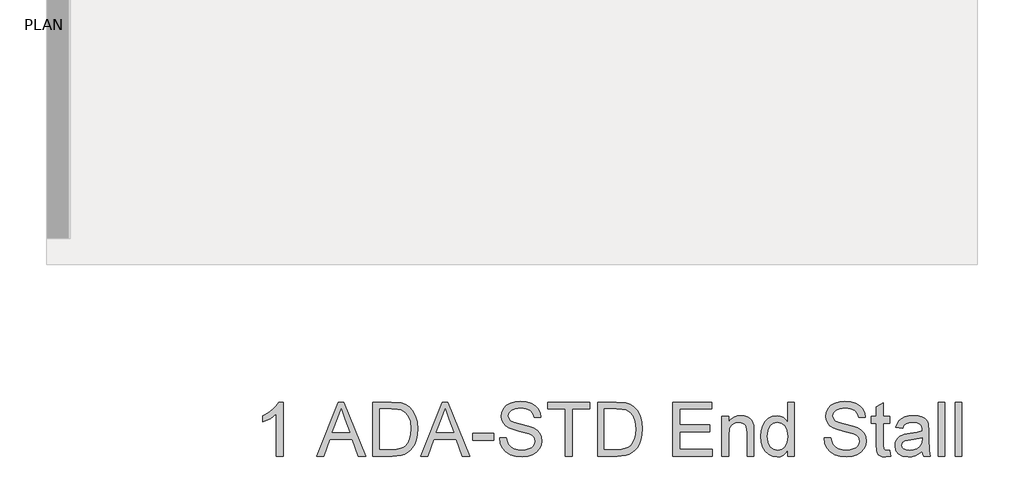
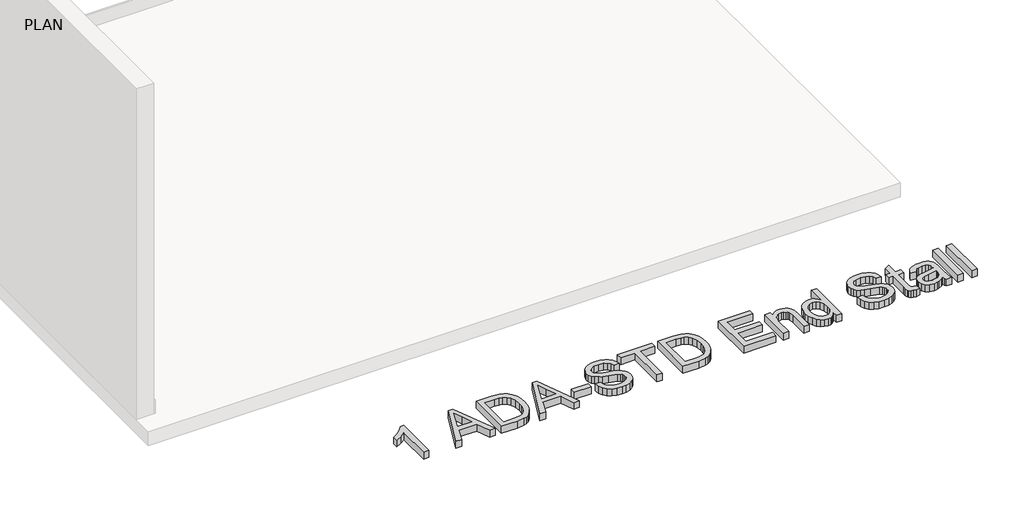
# One storey, part 19 of 21: 1 proxy.
"""IFC4 building model written with IfcOpenShell, lengths in millimetres."""

import ifcopenshell
import ifcopenshell.guid

model = None  # the IFC model being written
_history = None  # IfcOwnerHistory: only IFC2X3 demands one
_inside = {}  # id of a spatial element -> (the spatial element, [elements in it])
_under = {}  # id of a project, library or spatial element -> (it, [spatial elements below it])
_declared = {}  # id of a project -> (the project, [libraries it declares])
_typed = {}  # id of a type object -> (the type object, [elements of that type])
_made_of = {}  # id of a material, layer set ... -> (it, [elements and type objects made of it])


def new_model(schema):
    """Start an empty IFC model of exactly this schema.

    Asked for "IFC4X3", IfcOpenShell would pick the latest addendum, in which some entities
    have other attributes; the version numbers below select the first issue.
    IFC2X3 requires an IfcOwnerHistory on every rooted entity: one is made here for all.
    """
    global model, _history
    if schema == "IFC4X3":
        model = ifcopenshell.file(schema_version=(4, 3, 0, 0))
    else:
        model = ifcopenshell.file(schema=schema)
    _inside.clear()
    _under.clear()
    _declared.clear()
    _typed.clear()
    _made_of.clear()
    _history = None
    if model.schema == "IFC2X3":
        org = make("IfcOrganization", Name="unknown")
        user = make(
            "IfcPersonAndOrganization",
            ThePerson=make("IfcPerson", FamilyName="unknown"),
            TheOrganization=org,
        )
        app = make(
            "IfcApplication",
            ApplicationDeveloper=org,
            Version="unknown",
            ApplicationFullName="unknown",
            ApplicationIdentifier="unknown",
        )
        _history = make(
            "IfcOwnerHistory",
            OwningUser=user,
            OwningApplication=app,
            ChangeAction="ADDED",
            CreationDate=0,
        )
    return model


def make(cls, **values):
    """One entity of the class cls with the attributes given. An attribute that is None is left unset."""
    return model.create_entity(
        cls, **{name: value for name, value in values.items() if value is not None}
    )


def rooted(cls, **values):
    """An entity with a GlobalId (a new one), such as an element, a storey or a relation."""
    return make(cls, GlobalId=ifcopenshell.guid.new(), OwnerHistory=_history, **values)


def si_unit(unit_type, name, prefix=None):
    """IfcSIUnit, for example si_unit("LENGTHUNIT", "METRE", prefix="MILLI")."""
    return make("IfcSIUnit", UnitType=unit_type, Prefix=prefix, Name=name)


def assignment(units):
    """IfcUnitAssignment: the units of a project."""
    return None if units is None else make("IfcUnitAssignment", Units=units)


def point(xyz):
    """IfcCartesianPoint."""
    return None if xyz is None else make("IfcCartesianPoint", Coordinates=xyz)


def direction(xyz):
    """IfcDirection."""
    return None if xyz is None else make("IfcDirection", DirectionRatios=xyz)


def frame(location, z_axis=None, x_axis=None):
    """IfcAxis2Placement3D, a coordinate frame: its origin and axes. An axis left out is left unset."""
    return make(
        "IfcAxis2Placement3D",
        Location=point(location),
        Axis=direction(z_axis),
        RefDirection=direction(x_axis),
    )


def origin():
    """The frame at (0, 0, 0) with its axes left unset."""
    return frame((0.0, 0.0, 0.0))


def origin_with_axes():
    """The frame at (0, 0, 0) with the z axis (0, 0, 1) and the x axis (1, 0, 0) written out."""
    return frame((0.0, 0.0, 0.0), z_axis=(0.0, 0.0, 1.0), x_axis=(1.0, 0.0, 0.0))


def place(relative_to, where):
    """IfcLocalPlacement: puts the frame where relative to a parent placement (None: the world)."""
    return make(
        "IfcLocalPlacement", PlacementRelTo=relative_to, RelativePlacement=where
    )


def context(
    kind, dimensions, precision=None, world=None, true_north=None, identifier=None
):
    """IfcGeometricRepresentationContext, for example the 3D "Model" context."""
    return make(
        "IfcGeometricRepresentationContext",
        ContextIdentifier=identifier,
        ContextType=kind,
        CoordinateSpaceDimension=dimensions,
        Precision=precision,
        WorldCoordinateSystem=world,
        TrueNorth=true_north,
    )


def project(units=None, contexts=None):
    """IfcProject with its units and contexts."""
    return rooted(
        "IfcProject",
        Name="project",
        RepresentationContexts=contexts,
        UnitsInContext=assignment(units),
    )


def spatial(cls, under=None, at=None, **own):
    """A site, building, storey or space (cls), placed at a placement, below another one or the project."""
    s = rooted(cls, ObjectPlacement=at, **own)
    if under is not None:
        _under.setdefault(under.id(), (under, []))[1].append(s)
    return s


def polyline(points):
    """IfcPolyline through the points."""
    return make("IfcPolyline", Points=[point(p) for p in points])


def outline(outer, holes=None, kind="AREA"):
    """IfcArbitraryClosedProfileDef: a profile drawn as a closed curve; with holes, ...WithVoids."""
    if holes is None:
        return make("IfcArbitraryClosedProfileDef", ProfileType=kind, OuterCurve=outer)
    return make(
        "IfcArbitraryProfileDefWithVoids",
        ProfileType=kind,
        OuterCurve=outer,
        InnerCurves=holes,
    )


def extrude(swept, where, along, depth):
    """IfcExtrudedAreaSolid: the profile swept, set in the frame where, extruded along a direction by depth."""
    return make(
        "IfcExtrudedAreaSolid",
        SweptArea=swept,
        Position=where,
        ExtrudedDirection=direction(along),
        Depth=depth,
    )


def shape(context_of_items, identifier, shape_type, items):
    """IfcShapeRepresentation: the items that make up one representation, for example the "Body"."""
    return make(
        "IfcShapeRepresentation",
        ContextOfItems=context_of_items,
        RepresentationIdentifier=identifier,
        RepresentationType=shape_type,
        Items=items,
    )


def made_of(thing, what):
    """Note that an element or type object is made of a material, layer set ...; save() writes the relation."""
    if what is not None:
        _made_of.setdefault(what.id(), (what, []))[1].append(thing)
    return thing


def element(
    cls,
    number,
    at=None,
    inside=None,
    cuts=None,
    type_object=None,
    material=None,
    context=None,
    identifier="Body",
    shape_type=None,
    held_by="IfcProductDefinitionShape",
    body=None,
    shapes=None,
    **own,
):
    """One element of the class cls, such as IfcWall. Its Tag is "e" and its number.

    at: its placement. inside: the storey or other place that contains it. cuts: it is an
    opening in that element (IfcRelVoidsElement). A single representation is given by context,
    identifier, shape_type and body (its items); several are given by shapes. held_by: the class
    of the entity that holds the representations. save() writes the other relations.
    """
    e = rooted(cls, Tag="e%d" % number, ObjectPlacement=at, **own)
    if body is not None:
        shapes = [shape(context, identifier, shape_type, body)]
    if shapes is not None:
        e.Representation = make(held_by, Representations=shapes)
    if inside is not None:
        _inside.setdefault(inside.id(), (inside, []))[1].append(e)
    if cuts is not None:
        rooted(
            "IfcRelVoidsElement", RelatingBuildingElement=cuts, RelatedOpeningElement=e
        )
    if type_object is not None:
        _typed.setdefault(type_object.id(), (type_object, []))[1].append(e)
    return made_of(e, material)


def aggregate(whole, parts):
    """IfcRelAggregates: a whole, such as a stair, and the parts it consists of."""
    return rooted("IfcRelAggregates", RelatingObject=whole, RelatedObjects=parts)


def save(model, path):
    """Write the relations noted so far, then the file.

    IfcRelAggregates (storeys below a building ...), IfcRelContainedInSpatialStructure (elements
    in a storey), IfcRelDefinesByType, IfcRelAssociatesMaterial and IfcRelDeclares: one each for
    every whole, place, type object, material and project.
    """
    for whole, parts in _under.values():
        aggregate(whole, parts)
    for where, things in _inside.values():
        rooted(
            "IfcRelContainedInSpatialStructure",
            RelatedElements=things,
            RelatingStructure=where,
        )
    for kind, things in _typed.values():
        rooted("IfcRelDefinesByType", RelatedObjects=things, RelatingType=kind)
    for what, things in _made_of.values():
        rooted("IfcRelAssociatesMaterial", RelatedObjects=things, RelatingMaterial=what)
    for by, libraries in _declared.values():
        rooted("IfcRelDeclares", RelatingContext=by, RelatedDefinitions=libraries)
    model.write(path)


model = new_model("IFC4")

# Units and contexts
model_context = context("Model", 3, world=origin())
ifc_project = project(units=[si_unit("LENGTHUNIT", "METRE", prefix="MILLI")], contexts=[model_context])

# Site, building, storey
site = spatial("IfcSite", under=ifc_project)
building = spatial("IfcBuilding", under=site)
storey = spatial("IfcBuildingStorey", under=building, Name="PLAN", Elevation=0.0)

# Proxy
placement = place(None, origin())
element("IfcBuildingElementProxy", 1, Name="12\" Arial", ObjectType="12\" Arial", at=placement, inside=storey, context=model_context, shape_type="SweptSolid", body=[
    extrude(outline(polyline([(-13832.8039388, 28803.7139361), (-13870.8748256, 28803.7139361), (-13870.8748256, 29041.0621208), (-13906.9380679, 29015.3717079), (-13947.0165991, 28996.1503715), (-13947.0165991, 29032.1392567), (-13917.1157098, 29048.4048943), (-13891.21152, 29067.7563558), (-13870.7911737, 29088.3347111), (-13857.3418151, 29108.2810302), (-13832.8039388, 29108.2810302), (-13832.8039388, 28803.7139361)])), origin_with_axes(), (0.0, 0.0, 1.0), 50.8),
    extrude(outline(polyline([(-13644.6058639, 28803.7139361), (-13523.0318407, 29108.2810302), (-13490.6121012, 29108.2810302), (-13369.0380781, 28803.7139361), (-13409.2653236, 28803.7139361), (-13444.1388508, 28898.891153), (-13569.5794483, 28898.891153), (-13604.3786183, 28803.7139361), (-13644.6058639, 28803.7139361)]), holes=[polyline([(-13555.6002946, 28936.9620398), (-13458.0436473, 28936.9620398), (-13485.4814544, 29011.8397409), (-13506.821971, 29070.2101434), (-13525.7830571, 29018.3831745), (-13555.6002946, 28936.9620398)])]), origin_with_axes(), (0.0, 0.0, 1.0), 50.8),
    extrude(outline(polyline([(-13328.3646893, 28803.7139361), (-13328.3646893, 29108.2810302), (-13223.2979647, 29108.2810302), (-13168.942851, 29103.8939553), (-13144.6652249, 29095.4358238), (-13124.1798162, 29082.1072955), (-13103.1181391, 29058.9078489), (-13088.1165738, 29030.0572551), (-13079.1379418, 28996.1131929), (-13076.1450645, 28957.6333416), (-13078.1712982, 28924.9440572), (-13084.2499994, 28896.1771152), (-13093.5074709, 28871.6857122), (-13105.0700156, 28851.823045), (-13118.3799545, 28836.1429703), (-13132.8796086, 28824.1993449), (-13149.5263269, 28815.3415434), (-13169.2774584, 28808.9189402), (-13218.241675, 28803.7139361), (-13328.3646893, 28803.7139361)]), holes=[polyline([(-13290.2938025, 28841.7848229), (-13222.9261787, 28841.7848229), (-13195.0608177, 28843.1604311), (-13173.9247834, 28847.2872557), (-13157.9751639, 28853.9236359), (-13145.6690472, 28862.8279107), (-13132.4427601, 28879.3073253), (-13122.5067791, 28900.6385472), (-13116.2886582, 28926.914523), (-13114.2159513, 28958.2281992), (-13118.2777133, 28999.7195172), (-13130.4629996, 29030.3546839), (-13148.4667368, 29051.3977717), (-13169.9838518, 29064.112853), (-13191.8820474, 29068.6858208), (-13223.9671795, 29070.2101434), (-13290.2938025, 29070.2101434), (-13290.2938025, 28841.7848229)])]), origin_with_axes(), (0.0, 0.0, 1.0), 50.8),
    extrude(outline(polyline([(-13059.2659799, 28803.7139361), (-12937.6919568, 29108.2810302), (-12905.2722173, 29108.2810302), (-12783.6981941, 28803.7139361), (-12823.9254397, 28803.7139361), (-12858.7989669, 28898.891153), (-12984.2395644, 28898.891153), (-13019.0387344, 28803.7139361), (-13059.2659799, 28803.7139361)]), holes=[polyline([(-12970.2604107, 28936.9620398), (-12872.7037634, 28936.9620398), (-12900.1415704, 29011.8397409), (-12921.482087, 29070.2101434), (-12940.4431732, 29018.3831745), (-12970.2604107, 28936.9620398)])]), origin_with_axes(), (0.0, 0.0, 1.0), 50.8),
    extrude(outline(polyline([(-12766.8191096, 28894.1322922), (-12766.8191096, 28932.2031789), (-12647.8475885, 28932.2031789), (-12647.8475885, 28894.1322922), (-12766.8191096, 28894.1322922)])), origin_with_axes(), (0.0, 0.0, 1.0), 50.8),
    extrude(outline(polyline([(-12614.5355626, 28908.4088747), (-12576.4646758, 28908.4088747), (-12572.0961903, 28887.2821351), (-12564.1957377, 28870.3008093), (-12551.8710317, 28856.8235667), (-12534.2297858, 28846.2090763), (-12512.6661976, 28839.3217406), (-12488.5744646, 28837.025962), (-12467.3640731, 28838.7640616), (-12448.7933622, 28843.9783603), (-12433.7453237, 28852.2320096), (-12423.1029494, 28863.0881609), (-12416.7732926, 28875.5522866), (-12414.6634071, 28888.6298593), (-12416.2434976, 28901.3728246), (-12420.9837691, 28912.3869849), (-12430.6130266, 28921.7838762), (-12446.860075, 28929.6750341), (-12502.2933681, 28944.2118668), (-12538.6819232, 28953.8318297), (-12561.9650217, 28962.98706), (-12580.9168132, 28975.7950878), (-12594.3475826, 28991.3171535), (-12602.3502763, 29009.2186496), (-12605.0178409, 29029.1649686), (-12601.7182401, 29051.4628342), (-12591.8194377, 29072.2549665), (-12575.581684, 29089.877623), (-12553.2652292, 29102.6670615), (-12526.4780476, 29110.4466837), (-12496.8281138, 29113.039891), (-12464.7058031, 29110.3258532), (-12436.5987813, 29102.1837397), (-12413.5108705, 29088.7808543), (-12396.4458929, 29070.2845006), (-12385.6455095, 29047.8472153), (-12381.3513812, 29022.621535), (-12419.4222679, 29022.621535), (-12426.4118448, 29045.3376598), (-12440.9858561, 29061.7334226), (-12463.7577488, 29071.6601088), (-12495.3409698, 29074.9690043), (-12527.6677628, 29071.6972874), (-12549.8447979, 29061.882137), (-12562.6714151, 29047.4382507), (-12566.9469541, 29030.2803267), (-12563.9168982, 29015.6505474), (-12554.8267304, 29003.8835204), (-12533.3374994, 28993.3619765), (-12492.6641106, 28982.617361), (-12450.6894708, 28972.4118352), (-12425.2964868, 28963.5075604), (-12403.5934788, 28949.6957104), (-12388.4524938, 28932.6493221), (-12379.5575137, 28912.5542886), (-12376.5925203, 28889.5965029), (-12380.0036569, 28866.1275115), (-12390.2370666, 28844.0527175), (-12406.8744903, 28825.0544527), (-12429.4976686, 28810.8150488), (-12456.7031094, 28801.9200687), (-12487.0873206, 28798.9550753), (-12524.3867514, 28802.1524349), (-12555.0869806, 28811.7445138), (-12579.541205, 28827.7684905), (-12598.1026212, 28850.2615438), (-12610.0183626, 28877.6621722), (-12614.5355626, 28908.4088747)])), origin_with_axes(), (0.0, 0.0, 1.0), 50.8),
    extrude(outline(polyline([(-12243.3444167, 28803.7139361), (-12243.3444167, 29070.2101434), (-12343.2804944, 29070.2101434), (-12343.2804944, 29108.2810302), (-12105.3374522, 29108.2810302), (-12105.3374522, 29070.2101434), (-12205.2735299, 29070.2101434), (-12205.2735299, 28803.7139361), (-12243.3444167, 28803.7139361)])), origin_with_axes(), (0.0, 0.0, 1.0), 50.8),
    extrude(outline(polyline([(-12062.5077046, 28803.7139361), (-12062.5077046, 29108.2810302), (-11957.44098, 29108.2810302), (-11903.0858663, 29103.8939553), (-11878.8082402, 29095.4358238), (-11858.3228314, 29082.1072955), (-11837.2611543, 29058.9078489), (-11822.2595891, 29030.0572551), (-11813.2809571, 28996.1131929), (-11810.2880798, 28957.6333416), (-11812.3143135, 28924.9440572), (-11818.3930147, 28896.1771152), (-11827.6504861, 28871.6857122), (-11839.2130309, 28851.823045), (-11852.5229698, 28836.1429703), (-11867.0226239, 28824.1993449), (-11883.6693422, 28815.3415434), (-11903.4204737, 28808.9189402), (-11952.3846903, 28803.7139361), (-12062.5077046, 28803.7139361)]), holes=[polyline([(-12024.4368178, 28841.7848229), (-11957.069194, 28841.7848229), (-11929.203833, 28843.1604311), (-11908.0677987, 28847.2872557), (-11892.1181791, 28853.9236359), (-11879.8120624, 28862.8279107), (-11866.5857754, 28879.3073253), (-11856.6497944, 28900.6385472), (-11850.4316735, 28926.914523), (-11848.3589665, 28958.2281992), (-11852.4207286, 28999.7195172), (-11864.6060149, 29030.3546839), (-11882.6097521, 29051.3977717), (-11904.1268671, 29064.112853), (-11926.0250627, 29068.6858208), (-11958.1101948, 29070.2101434), (-12024.4368178, 29070.2101434), (-12024.4368178, 28841.7848229)])]), origin_with_axes(), (0.0, 0.0, 1.0), 50.8),
    extrude(outline(polyline([(-11638.9690894, 28803.7139361), (-11638.9690894, 29108.2810302), (-11420.0614905, 29108.2810302), (-11420.0614905, 29070.2101434), (-11600.8982026, 29070.2101434), (-11600.8982026, 28979.7917874), (-11429.5792122, 28979.7917874), (-11429.5792122, 28941.7209006), (-11600.8982026, 28941.7209006), (-11600.8982026, 28841.7848229), (-11415.3026297, 28841.7848229), (-11415.3026297, 28803.7139361), (-11638.9690894, 28803.7139361)])), origin_with_axes(), (0.0, 0.0, 1.0), 50.8),
    extrude(outline(polyline([(-11362.9551604, 28803.7139361), (-11362.9551604, 29027.3803958), (-11324.8842736, 29027.3803958), (-11324.8842736, 28996.1503715), (-11311.6579865, 29011.8955088), (-11295.7734295, 29023.1420354), (-11277.2306026, 29029.8899514), (-11256.0295058, 29032.1392567), (-11237.2636072, 29030.3267999), (-11220.0777992, 29024.8894296), (-11205.7454488, 29016.5056552), (-11195.539923, 29005.8539862), (-11184.1260927, 28977.8585002), (-11182.1184483, 28941.0516858), (-11182.1184483, 28803.7139361), (-11220.189335, 28803.7139361), (-11220.189335, 28935.921039), (-11224.5764099, 28969.6048509), (-11230.6458164, 28979.6337783), (-11240.0798862, 28987.4134005), (-11252.172226, 28992.4046275), (-11266.2164423, 28994.0683699), (-11288.5143078, 28990.3319206), (-11307.5218672, 28979.1225726), (-11315.11792, 28969.9719896), (-11320.543672, 28957.4660379), (-11324.8842736, 28922.3880284), (-11324.8842736, 28803.7139361), (-11362.9551604, 28803.7139361)])), origin_with_axes(), (0.0, 0.0, 1.0), 50.8),
    extrude(outline(polyline([(-10991.7640145, 28803.7139361), (-10991.7640145, 28839.6284641), (-11003.1546082, 28821.8338565), (-11016.9525162, 28809.1234225), (-11033.1577386, 28801.4971621), (-11051.7702754, 28798.9550753), (-11076.3825089, 28802.6357567), (-11098.9127407, 28813.677801), (-11117.9853627, 28831.3097522), (-11132.2247666, 28854.7601544), (-11141.0918628, 28883.0809532), (-11144.0475615, 28915.3240944), (-11141.324229, 28947.1675656), (-11133.1542316, 28975.9252129), (-11119.5468639, 28999.9611781), (-11100.5114205, 29017.6396025), (-11077.4885722, 29028.5143431), (-11051.9189898, 29032.1392567), (-11033.2925111, 29029.5460493), (-11016.8223911, 29021.7664272), (-11002.8618267, 29009.8413911), (-10991.7640145, 28994.8119419), (-10991.7640145, 29108.2810302), (-10953.6931277, 29108.2810302), (-10953.6931277, 28803.7139361), (-10991.7640145, 28803.7139361)]), holes=[polyline([(-11105.9766747, 28915.4728088), (-11101.6825464, 28881.0361302), (-11088.8001614, 28856.5447272), (-11070.0807361, 28841.9056533), (-11048.275487, 28837.025962), (-11026.4795325, 28841.6825817), (-11008.2341344, 28855.6524408), (-10995.8815445, 28879.1957895), (-10991.7640145, 28912.5728779), (-10995.9559017, 28949.0636742), (-11008.5315632, 28974.3637117), (-11027.2416939, 28989.1422054), (-11049.8369882, 28994.0683699), (-11071.8653089, 28989.337393), (-11089.9155194, 28975.1444623), (-11101.9613859, 28950.7645952), (-11105.9766747, 28915.4728088)])]), origin_with_axes(), (0.0, 0.0, 1.0), 50.8),
    extrude(outline(polyline([(-10787.1329981, 28908.4088747), (-10749.0621114, 28908.4088747), (-10744.6936258, 28887.2821351), (-10736.7931733, 28870.3008093), (-10724.4684673, 28856.8235667), (-10706.8272214, 28846.2090763), (-10685.2636332, 28839.3217406), (-10661.1719002, 28837.025962), (-10639.9615087, 28838.7640616), (-10621.3907978, 28843.9783603), (-10606.3427593, 28852.2320096), (-10595.7003849, 28863.0881609), (-10589.3707282, 28875.5522866), (-10587.2608427, 28888.6298593), (-10588.8409332, 28901.3728246), (-10593.5812047, 28912.3869849), (-10603.2104622, 28921.7838762), (-10619.4575106, 28929.6750341), (-10674.8908037, 28944.2118668), (-10711.2793588, 28953.8318297), (-10734.5624572, 28962.98706), (-10753.5142488, 28975.7950878), (-10766.9450182, 28991.3171535), (-10774.9477119, 29009.2186496), (-10777.6152765, 29029.1649686), (-10774.3156757, 29051.4628342), (-10764.4168733, 29072.2549665), (-10748.1791196, 29089.877623), (-10725.8626648, 29102.6670615), (-10699.0754832, 29110.4466837), (-10669.4255494, 29113.039891), (-10637.3032387, 29110.3258532), (-10609.1962169, 29102.1837397), (-10586.1083061, 29088.7808543), (-10569.0433285, 29070.2845006), (-10558.2429451, 29047.8472153), (-10553.9488167, 29022.621535), (-10592.0197035, 29022.621535), (-10599.0092804, 29045.3376598), (-10613.5832917, 29061.7334226), (-10636.3551844, 29071.6601088), (-10667.9384054, 29074.9690043), (-10700.2651984, 29071.6972874), (-10722.4422335, 29061.882137), (-10735.2688507, 29047.4382507), (-10739.5443897, 29030.2803267), (-10736.5143338, 29015.6505474), (-10727.424166, 29003.8835204), (-10705.934935, 28993.3619765), (-10665.2615462, 28982.617361), (-10623.2869064, 28972.4118352), (-10597.8939224, 28963.5075604), (-10576.1909144, 28949.6957104), (-10561.0499294, 28932.6493221), (-10552.1549493, 28912.5542886), (-10549.1899559, 28889.5965029), (-10552.6010925, 28866.1275115), (-10562.8345022, 28844.0527175), (-10579.4719259, 28825.0544527), (-10602.0951042, 28810.8150488), (-10629.300545, 28801.9200687), (-10659.6847561, 28798.9550753), (-10696.9841869, 28802.1524349), (-10727.6844162, 28811.7445138), (-10752.1386406, 28827.7684905), (-10770.7000568, 28850.2615438), (-10782.6157982, 28877.6621722), (-10787.1329981, 28908.4088747)])), origin_with_axes(), (0.0, 0.0, 1.0), 50.8),
    extrude(outline(polyline([(-10415.9418522, 28835.4644608), (-10411.1829914, 28802.5985781), (-10439.6617993, 28798.9550753), (-10457.9350813, 28800.5351658), (-10471.5610384, 28805.2754373), (-10481.1902959, 28812.5810323), (-10487.4734793, 28821.8570931), (-10490.9310892, 28837.7881233), (-10492.0836258, 28865.0586267), (-10492.0836258, 28989.3095091), (-10520.6367908, 28989.3095091), (-10520.6367908, 29027.3803958), (-10492.0836258, 29027.3803958), (-10492.0836258, 29081.7355095), (-10454.012739, 29104.117027), (-10454.012739, 29027.3803958), (-10415.9418522, 29027.3803958), (-10415.9418522, 28989.3095091), (-10454.012739, 28989.3095091), (-10454.012739, 28866.1739847), (-10452.0050946, 28846.5436837), (-10445.4988395, 28839.5912855), (-10432.523508, 28837.025962), (-10415.9418522, 28835.4644608)])), origin_with_axes(), (0.0, 0.0, 1.0), 50.8),
    extrude(outline(polyline([(-10235.1051401, 28832.2671012), (-10253.2947704, 28816.6706783), (-10272.0234903, 28806.4651525), (-10291.7188538, 28800.8325946), (-10312.8084149, 28798.9550753), (-10344.6240021, 28803.4722752), (-10368.0929936, 28817.023875), (-10382.5647638, 28837.6022303), (-10387.3886872, 28863.1996967), (-10385.5669358, 28878.9820125), (-10380.1016815, 28893.314363), (-10371.6714339, 28905.5833011), (-10360.9547023, 28915.17538), (-10334.2976459, 28927.6673897), (-10301.357406, 28933.3928941), (-10262.4314114, 28939.4158274), (-10235.3282117, 28946.4797615), (-10235.1051401, 28954.9564823), (-10237.7262315, 28971.9471027), (-10245.5895054, 28983.0635042), (-10263.1749834, 28991.3171535), (-10287.675681, 28994.0683699), (-10310.3546273, 28992.2373238), (-10326.192711, 28986.7441856), (-10336.9930944, 28976.5851331), (-10344.5589396, 28960.756344), (-10382.6298263, 28965.5152048), (-10376.0213301, 28986.335221), (-10366.1597064, 29002.6938052), (-10352.1247847, 29015.2044042), (-10332.9963949, 29024.480465), (-10309.6017606, 29030.2245588), (-10282.7681058, 29032.1392567), (-10257.0312197, 29030.4476304), (-10236.6294628, 29025.3727514), (-10221.2468169, 29017.7418437), (-10210.5672639, 29008.382131), (-10203.4847405, 28996.8102917), (-10198.8931834, 28982.5430038), (-10197.0342534, 28949.2309779), (-10197.0342534, 28901.865441), (-10195.1009662, 28835.724711), (-10187.5165317, 28803.7139361), (-10225.5874185, 28803.7139361), (-10231.6847089, 28816.9495178), (-10235.1051401, 28832.2671012)]), holes=[polyline([(-10235.1051401, 28908.4088747), (-10296.5241879, 28896.7347942), (-10329.2785348, 28890.5631465), (-10344.1127964, 28880.5249244), (-10349.3178004, 28865.8765559), (-10346.4829321, 28854.5556721), (-10337.9783273, 28845.2796113), (-10323.9898789, 28839.0893744), (-10304.70348, 28837.025962), (-10284.2552498, 28839.3031513), (-10266.18645, 28846.1347191), (-10251.5380815, 28856.2008252), (-10241.351145, 28868.1816291), (-10236.8339451, 28880.5249244), (-10235.3282117, 28897.6270806), (-10235.1051401, 28908.4088747)])]), origin_with_axes(), (0.0, 0.0, 1.0), 50.8),
    extrude(outline(polyline([(-10144.6867841, 28803.7139361), (-10144.6867841, 29108.2810302), (-10106.6158973, 29108.2810302), (-10106.6158973, 28803.7139361), (-10144.6867841, 28803.7139361)])), origin_with_axes(), (0.0, 0.0, 1.0), 50.8),
    extrude(outline(polyline([(-10049.5095672, 28803.7139361), (-10049.5095672, 29108.2810302), (-10011.4386804, 29108.2810302), (-10011.4386804, 28803.7139361), (-10049.5095672, 28803.7139361)])), origin_with_axes(), (0.0, 0.0, 1.0), 50.8),
])

save(model, "model.ifc")
